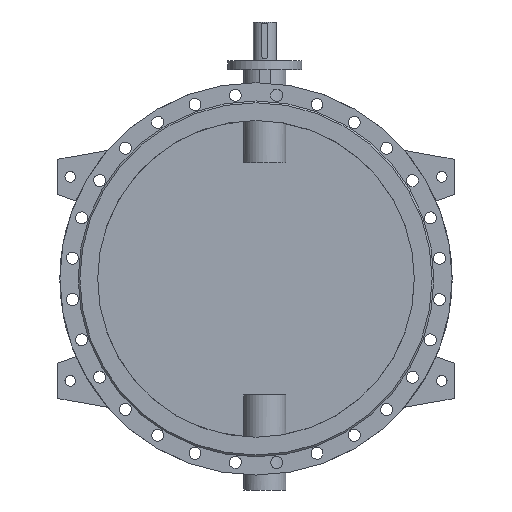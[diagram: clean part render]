
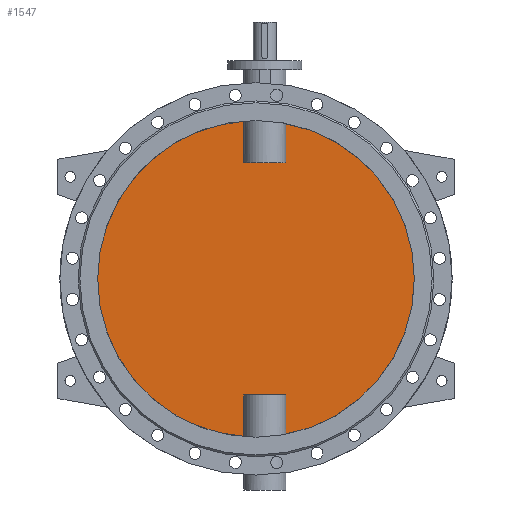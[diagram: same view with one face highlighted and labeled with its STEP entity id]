
A CAD part, front view. The second image highlights one B-rep face of the part: STEP entity #1547.
In plain terms, the highlighted planar face has unit normal (0, -1, 0).
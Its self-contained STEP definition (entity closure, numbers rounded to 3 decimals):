
#1547=ADVANCED_FACE('',(#3309),#3311,.F.);
#3309=FACE_BOUND('',#3310,.T.);
#3310=EDGE_LOOP('',(#4201,#4202,#4203,#4204,#4205,#4206,#4207,#4208));
#3311=PLANE('',#3312);
#3312=AXIS2_PLACEMENT_3D('',#3313,#3314,#3315);
#3313=CARTESIAN_POINT('',(0.,-5.,0.));
#3314=DIRECTION('',(0.,1.,0.));
#3315=DIRECTION('',(1.,0.,0.));
#4201=ORIENTED_EDGE('',*,*,#4647,.T.);
#4202=ORIENTED_EDGE('',*,*,#4663,.T.);
#4203=ORIENTED_EDGE('',*,*,#4664,.T.);
#4204=ORIENTED_EDGE('',*,*,#4665,.T.);
#4205=ORIENTED_EDGE('',*,*,#4649,.T.);
#4206=ORIENTED_EDGE('',*,*,#4666,.T.);
#4207=ORIENTED_EDGE('',*,*,#4667,.T.);
#4208=ORIENTED_EDGE('',*,*,#4668,.T.);
#4647=EDGE_CURVE('',#5375,#5376,#5377,.F.);
#4649=EDGE_CURVE('',#5380,#5378,#5381,.F.);
#4663=EDGE_CURVE('',#5376,#5407,#5408,.T.);
#4664=EDGE_CURVE('',#5407,#5409,#5410,.F.);
#4665=EDGE_CURVE('',#5409,#5380,#5411,.F.);
#4666=EDGE_CURVE('',#5378,#5412,#5413,.F.);
#4667=EDGE_CURVE('',#5412,#5414,#5415,.F.);
#4668=EDGE_CURVE('',#5414,#5375,#5416,.T.);
#5375=VERTEX_POINT('',#7827);
#5376=VERTEX_POINT('',#7828);
#5377=CIRCLE('',#7829,450.);
#5378=VERTEX_POINT('',#7833);
#5380=VERTEX_POINT('',#7923);
#5381=CIRCLE('',#7924,450.);
#5407=VERTEX_POINT('',#8328);
#5408=LINE('',#8329,#8330);
#5409=VERTEX_POINT('',#8332);
#5410=LINE('',#8333,#8334);
#5411=LINE('',#8336,#8337);
#5412=VERTEX_POINT('',#8339);
#5413=LINE('',#8340,#8341);
#5414=VERTEX_POINT('',#8343);
#5415=LINE('',#8344,#8345);
#5416=LINE('',#8347,#8348);
#7827=CARTESIAN_POINT('',(84.791,-5.,-441.939));
#7828=CARTESIAN_POINT('',(84.791,-5.,441.939));
#7829=AXIS2_PLACEMENT_3D('',#7830,#7831,#7832);
#7830=CARTESIAN_POINT('',(0.,-5.,0.));
#7831=DIRECTION('',(0.,1.,0.));
#7832=DIRECTION('',(0.188,0.,0.982));
#7833=CARTESIAN_POINT('',(-34.791,-5.,-448.653));
#7923=CARTESIAN_POINT('',(-34.791,-5.,448.653));
#7924=AXIS2_PLACEMENT_3D('',#7925,#7926,#7927);
#7925=CARTESIAN_POINT('',(0.,-5.,0.));
#7926=DIRECTION('',(0.,1.,0.));
#7927=DIRECTION('',(-0.077,0.,-0.997));
#8328=CARTESIAN_POINT('',(84.791,-5.,330.));
#8329=CARTESIAN_POINT('',(84.791,-5.,441.939));
#8330=VECTOR('',#8331,1.);
#8331=DIRECTION('',(0.,0.,-1.));
#8332=CARTESIAN_POINT('',(-34.791,-5.,330.));
#8333=CARTESIAN_POINT('',(-34.791,-5.,330.));
#8334=VECTOR('',#8335,1.);
#8335=DIRECTION('',(1.,0.,0.));
#8336=CARTESIAN_POINT('',(-34.791,-5.,448.653));
#8337=VECTOR('',#8338,1.);
#8338=DIRECTION('',(0.,0.,-1.));
#8339=CARTESIAN_POINT('',(-34.791,-5.,-330.));
#8340=CARTESIAN_POINT('',(-34.791,-5.,-330.));
#8341=VECTOR('',#8342,1.);
#8342=DIRECTION('',(0.,0.,-1.));
#8343=CARTESIAN_POINT('',(84.791,-5.,-330.));
#8344=CARTESIAN_POINT('',(84.791,-5.,-330.));
#8345=VECTOR('',#8346,1.);
#8346=DIRECTION('',(-1.,0.,0.));
#8347=CARTESIAN_POINT('',(84.791,-5.,-330.));
#8348=VECTOR('',#8349,1.);
#8349=DIRECTION('',(0.,0.,-1.));
